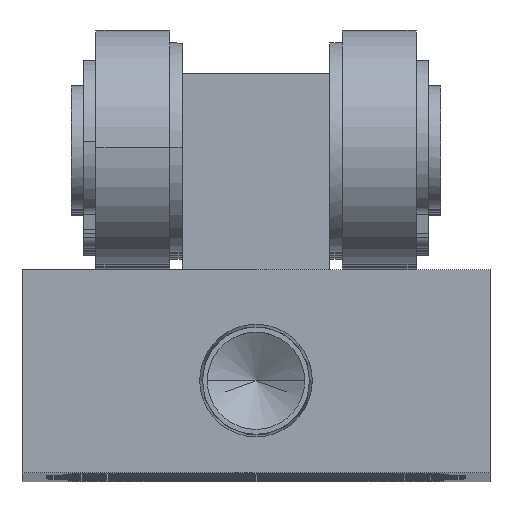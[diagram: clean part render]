
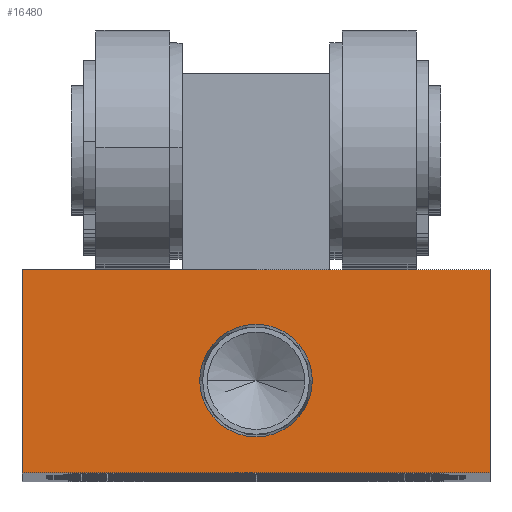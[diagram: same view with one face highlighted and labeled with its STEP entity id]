
A CAD part, top view. The second image highlights one B-rep face of the part: STEP entity #16480.
In plain terms, the highlighted planar face has unit normal (0, 0, 1).
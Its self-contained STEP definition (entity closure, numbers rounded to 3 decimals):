
#70 = AXIS2_PLACEMENT_3D ( 'NONE', #7083, #16366, #8435 ) ;
#82 = ORIENTED_EDGE ( 'NONE', *, *, #5527, .T. ) ;
#118 = ORIENTED_EDGE ( 'NONE', *, *, #8723, .F. ) ;
#511 = DIRECTION ( 'NONE',  ( 1., 0., 0. ) ) ;
#833 = ORIENTED_EDGE ( 'NONE', *, *, #16145, .T. ) ;
#1783 = VERTEX_POINT ( 'NONE', #9349 ) ;
#1799 = CARTESIAN_POINT ( 'NONE',  ( 0., 7.5, 0. ) ) ;
#2387 = LINE ( 'NONE', #4447, #9025 ) ;
#3107 = DIRECTION ( 'NONE',  ( 1., 0., 0. ) ) ;
#3117 = VERTEX_POINT ( 'NONE', #12049 ) ;
#3679 = VERTEX_POINT ( 'NONE', #10588 ) ;
#3972 = PLANE ( 'NONE',  #13662 ) ;
#4032 = FACE_OUTER_BOUND ( 'NONE', #5769, .T. ) ;
#4334 = ORIENTED_EDGE ( 'NONE', *, *, #14283, .F. ) ;
#4447 = CARTESIAN_POINT ( 'NONE',  ( -19., 16.5, 0. ) ) ;
#4689 = EDGE_CURVE ( 'NONE', #14519, #6523, #14706, .T. ) ;
#4741 = CARTESIAN_POINT ( 'NONE',  ( 19., 0., 0. ) ) ;
#4830 = VECTOR ( 'NONE', #16792, 1000. ) ;
#5332 = DIRECTION ( 'NONE',  ( -1., 0., 0. ) ) ;
#5527 = EDGE_CURVE ( 'NONE', #1783, #14519, #9277, .T. ) ;
#5769 = EDGE_LOOP ( 'NONE', ( #12248, #833, #13646, #82 ) ) ;
#6523 = VERTEX_POINT ( 'NONE', #9999 ) ;
#6613 = CIRCLE ( 'NONE', #70, 4.574 ) ;
#6797 = VECTOR ( 'NONE', #12664, 1000. ) ;
#7083 = CARTESIAN_POINT ( 'NONE',  ( 0., 7.5, 0. ) ) ;
#7512 = CIRCLE ( 'NONE', #10082, 4.574 ) ;
#7518 = CARTESIAN_POINT ( 'NONE',  ( -19., 0., 0. ) ) ;
#7551 = FACE_BOUND ( 'NONE', #16404, .T. ) ;
#8435 = DIRECTION ( 'NONE',  ( 1., 0., 0. ) ) ;
#8723 = EDGE_CURVE ( 'NONE', #3117, #3679, #6613, .T. ) ;
#9025 = VECTOR ( 'NONE', #16391, 1000. ) ;
#9277 = LINE ( 'NONE', #16385, #16315 ) ;
#9349 = CARTESIAN_POINT ( 'NONE',  ( -19., 0., 0. ) ) ;
#9499 = EDGE_CURVE ( 'NONE', #10985, #1783, #15834, .T. ) ;
#9999 = CARTESIAN_POINT ( 'NONE',  ( 19., 16.5, 0. ) ) ;
#10082 = AXIS2_PLACEMENT_3D ( 'NONE', #1799, #11055, #3107 ) ;
#10588 = CARTESIAN_POINT ( 'NONE',  ( 4.574, 7.5, 0. ) ) ;
#10985 = VERTEX_POINT ( 'NONE', #14653 ) ;
#11055 = DIRECTION ( 'NONE',  ( 0., 0., 1. ) ) ;
#12049 = CARTESIAN_POINT ( 'NONE',  ( -4.574, 7.5, 0. ) ) ;
#12248 = ORIENTED_EDGE ( 'NONE', *, *, #4689, .T. ) ;
#12664 = DIRECTION ( 'NONE',  ( 0., 1., 0. ) ) ;
#13235 = DIRECTION ( 'NONE',  ( 0., 0., -1. ) ) ;
#13646 = ORIENTED_EDGE ( 'NONE', *, *, #9499, .T. ) ;
#13662 = AXIS2_PLACEMENT_3D ( 'NONE', #17210, #13235, #5332 ) ;
#14234 = CARTESIAN_POINT ( 'NONE',  ( 19., 0., 0. ) ) ;
#14283 = EDGE_CURVE ( 'NONE', #3679, #3117, #7512, .T. ) ;
#14519 = VERTEX_POINT ( 'NONE', #14234 ) ;
#14653 = CARTESIAN_POINT ( 'NONE',  ( -19., 16.5, 0. ) ) ;
#14706 = LINE ( 'NONE', #4741, #6797 ) ;
#15834 = LINE ( 'NONE', #7518, #4830 ) ;
#16145 = EDGE_CURVE ( 'NONE', #6523, #10985, #2387, .T. ) ;
#16315 = VECTOR ( 'NONE', #511, 1000. ) ;
#16366 = DIRECTION ( 'NONE',  ( 0., 0., 1. ) ) ;
#16385 = CARTESIAN_POINT ( 'NONE',  ( -19., 0., 0. ) ) ;
#16391 = DIRECTION ( 'NONE',  ( -1., 0., 0. ) ) ;
#16404 = EDGE_LOOP ( 'NONE', ( #4334, #118 ) ) ;
#16480 = ADVANCED_FACE ( 'NONE', ( #7551, #4032 ), #3972, .F. ) ;
#16792 = DIRECTION ( 'NONE',  ( 0., -1., 0. ) ) ;
#17210 = CARTESIAN_POINT ( 'NONE',  ( 0., 0., 0. ) ) ;
